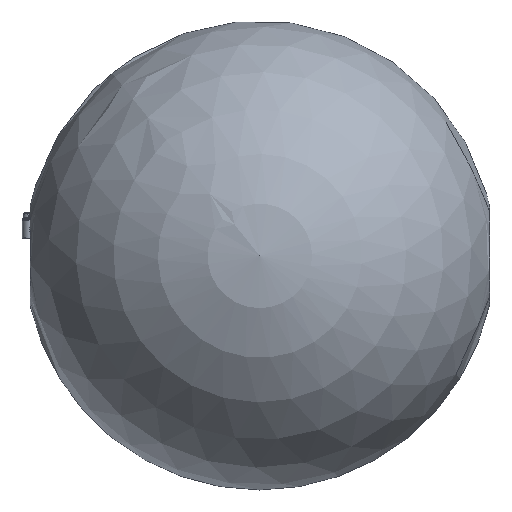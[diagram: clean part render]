
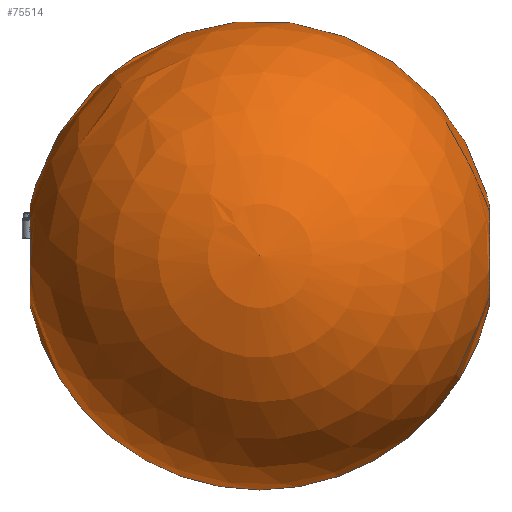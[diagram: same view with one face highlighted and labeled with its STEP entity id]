
A CAD part, left-side view. The second image highlights one B-rep face of the part: STEP entity #75514.
In plain terms, the highlighted spherical face has radius 1431 mm.
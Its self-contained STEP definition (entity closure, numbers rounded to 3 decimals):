
#3062 = CARTESIAN_POINT ( 'NONE',  ( -299.855, -26.234, 1398.985 ) ) ;
#3706 = CIRCLE ( 'NONE', #52696, 1431. ) ;
#7804 = CARTESIAN_POINT ( 'NONE',  ( 0., 0., -1398.985 ) ) ;
#10951 = DIRECTION ( 'NONE',  ( 0., -1., 0. ) ) ;
#11184 = FACE_OUTER_BOUND ( 'NONE', #14265, .T. ) ;
#14265 = EDGE_LOOP ( 'NONE', ( #58001, #97178, #85500, #20918 ) ) ;
#16640 = DIRECTION ( 'NONE',  ( 0.996, 0.087, 0. ) ) ;
#20918 = ORIENTED_EDGE ( 'NONE', *, *, #107660, .T. ) ;
#21570 = CIRCLE ( 'NONE', #84892, 1431. ) ;
#24945 = CARTESIAN_POINT ( 'NONE',  ( 0., 0., 0. ) ) ;
#25587 = DIRECTION ( 'NONE',  ( 1., 0., 0. ) ) ;
#28996 = CARTESIAN_POINT ( 'NONE',  ( -299.855, 26.234, 1398.985 ) ) ;
#29883 = DIRECTION ( 'NONE',  ( -1., 0., 0. ) ) ;
#36539 = CARTESIAN_POINT ( 'NONE',  ( -299.855, -26.234, -1398.985 ) ) ;
#36683 = CARTESIAN_POINT ( 'NONE',  ( 0., 0., 0. ) ) ;
#38130 = CIRCLE ( 'NONE', #38484, 301. ) ;
#38484 = AXIS2_PLACEMENT_3D ( 'NONE', #65249, #81941, #29883 ) ;
#44160 = VERTEX_POINT ( 'NONE', #3062 ) ;
#45821 = DIRECTION ( 'NONE',  ( 0.087, 0.996, 0. ) ) ;
#49240 = VERTEX_POINT ( 'NONE', #102753 ) ;
#52696 = AXIS2_PLACEMENT_3D ( 'NONE', #24945, #60290, #16640 ) ;
#54192 = AXIS2_PLACEMENT_3D ( 'NONE', #7804, #70083, #25587 ) ;
#54591 = DIRECTION ( 'NONE',  ( -0.996, 0.087, 0. ) ) ;
#55661 = DIRECTION ( 'NONE',  ( 1., 0., 0. ) ) ;
#58001 = ORIENTED_EDGE ( 'NONE', *, *, #110881, .T. ) ;
#60290 = DIRECTION ( 'NONE',  ( 0.087, -0.996, 0. ) ) ;
#63324 = CIRCLE ( 'NONE', #54192, 301. ) ;
#64010 = EDGE_CURVE ( 'NONE', #74238, #44160, #38130, .T. ) ;
#65249 = CARTESIAN_POINT ( 'NONE',  ( 0., 0., 1398.985 ) ) ;
#69607 = SPHERICAL_SURFACE ( 'NONE', #85616, 1431. ) ;
#70083 = DIRECTION ( 'NONE',  ( 0., 0., 1. ) ) ;
#74238 = VERTEX_POINT ( 'NONE', #28996 ) ;
#75514 = ADVANCED_FACE ( 'NONE', ( #11184 ), #69607, .T. ) ;
#81941 = DIRECTION ( 'NONE',  ( 0., 0., -1. ) ) ;
#84892 = AXIS2_PLACEMENT_3D ( 'NONE', #97840, #45821, #54591 ) ;
#85500 = ORIENTED_EDGE ( 'NONE', *, *, #64010, .T. ) ;
#85616 = AXIS2_PLACEMENT_3D ( 'NONE', #36683, #10951, #55661 ) ;
#97178 = ORIENTED_EDGE ( 'NONE', *, *, #98359, .T. ) ;
#97840 = CARTESIAN_POINT ( 'NONE',  ( 0., 0., 0. ) ) ;
#98359 = EDGE_CURVE ( 'NONE', #49240, #74238, #21570, .T. ) ;
#102753 = CARTESIAN_POINT ( 'NONE',  ( -299.855, 26.234, -1398.985 ) ) ;
#106784 = VERTEX_POINT ( 'NONE', #36539 ) ;
#107660 = EDGE_CURVE ( 'NONE', #44160, #106784, #3706, .T. ) ;
#110881 = EDGE_CURVE ( 'NONE', #106784, #49240, #63324, .T. ) ;
